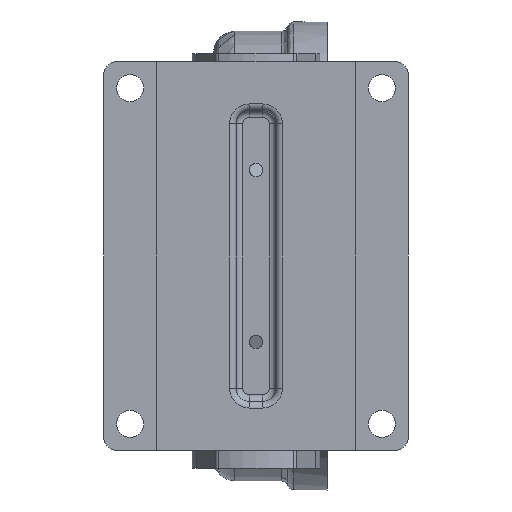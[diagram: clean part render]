
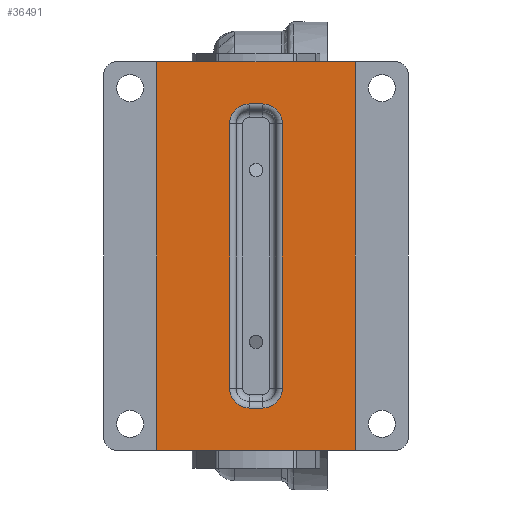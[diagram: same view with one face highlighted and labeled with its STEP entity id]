
A CAD part, front view. The second image highlights one B-rep face of the part: STEP entity #36491.
In plain terms, the highlighted planar face has unit normal (0, -1, 0).
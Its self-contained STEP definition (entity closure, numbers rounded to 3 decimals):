
#1338 = LINE ( 'NONE', #39336, #32659 ) ;
#2111 = CARTESIAN_POINT ( 'NONE',  ( -75.25, -264., -147. ) ) ;
#2452 = EDGE_CURVE ( 'NONE', #20464, #39149, #12293, .T. ) ;
#2592 = EDGE_CURVE ( 'NONE', #29528, #46848, #8167, .T. ) ;
#3522 = EDGE_CURVE ( 'NONE', #39149, #23028, #24662, .T. ) ;
#4311 = CARTESIAN_POINT ( 'NONE',  ( -5., -264., 100. ) ) ;
#4392 = EDGE_CURVE ( 'NONE', #23028, #47962, #1338, .T. ) ;
#4872 = EDGE_CURVE ( 'NONE', #12975, #23185, #15774, .T. ) ;
#6225 = EDGE_CURVE ( 'NONE', #47962, #20464, #28950, .T. ) ;
#6435 = CIRCLE ( 'NONE', #28716, 15. ) ;
#6614 = CIRCLE ( 'NONE', #24890, 15. ) ;
#7132 = EDGE_LOOP ( 'NONE', ( #33744, #36492, #35848, #34434 ) ) ;
#7262 = AXIS2_PLACEMENT_3D ( 'NONE', #35309, #46112, #45791 ) ;
#7345 = EDGE_CURVE ( 'NONE', #39123, #24845, #6614, .T. ) ;
#7458 = CARTESIAN_POINT ( 'NONE',  ( 75.25, -264., 147. ) ) ;
#8167 = CIRCLE ( 'NONE', #46568, 15. ) ;
#8877 = PLANE ( 'NONE',  #24658 ) ;
#9193 = CARTESIAN_POINT ( 'NONE',  ( -75.25, -264., -190.661 ) ) ;
#9595 = CARTESIAN_POINT ( 'NONE',  ( -20., -264., 100. ) ) ;
#9905 = DIRECTION ( 'NONE',  ( 0., 1., 0. ) ) ;
#10124 = VERTEX_POINT ( 'NONE', #29594 ) ;
#11265 = LINE ( 'NONE', #9595, #47134 ) ;
#12293 = LINE ( 'NONE', #33620, #43498 ) ;
#12427 = DIRECTION ( 'NONE',  ( 1., 0., 0. ) ) ;
#12585 = CARTESIAN_POINT ( 'NONE',  ( 115.25, -264., -147. ) ) ;
#12975 = VERTEX_POINT ( 'NONE', #34734 ) ;
#13191 = DIRECTION ( 'NONE',  ( 0., 0., 1. ) ) ;
#13493 = EDGE_CURVE ( 'NONE', #24845, #12975, #47928, .T. ) ;
#13959 = CARTESIAN_POINT ( 'NONE',  ( 5., -264., 100. ) ) ;
#14564 = DIRECTION ( 'NONE',  ( 0., 0., 1. ) ) ;
#14999 = EDGE_CURVE ( 'NONE', #46848, #10124, #37267, .T. ) ;
#15057 = DIRECTION ( 'NONE',  ( 0., 1., 0. ) ) ;
#15774 = CIRCLE ( 'NONE', #7262, 15. ) ;
#16218 = DIRECTION ( 'NONE',  ( 0., -1., 0. ) ) ;
#16243 = CARTESIAN_POINT ( 'NONE',  ( -5., -264., -115. ) ) ;
#16295 = CARTESIAN_POINT ( 'NONE',  ( 20., -264., 100. ) ) ;
#17750 = ORIENTED_EDGE ( 'NONE', *, *, #7345, .T. ) ;
#18121 = ORIENTED_EDGE ( 'NONE', *, *, #4872, .T. ) ;
#19931 = DIRECTION ( 'NONE',  ( -1., 0., 0. ) ) ;
#20464 = VERTEX_POINT ( 'NONE', #31215 ) ;
#21175 = EDGE_CURVE ( 'NONE', #23185, #29528, #11265, .T. ) ;
#21668 = DIRECTION ( 'NONE',  ( -1., 0., 0. ) ) ;
#23028 = VERTEX_POINT ( 'NONE', #23125 ) ;
#23125 = CARTESIAN_POINT ( 'NONE',  ( -75.25, -264., 147. ) ) ;
#23185 = VERTEX_POINT ( 'NONE', #32332 ) ;
#23511 = VERTEX_POINT ( 'NONE', #16295 ) ;
#23747 = CARTESIAN_POINT ( 'NONE',  ( 5., -264., 115. ) ) ;
#24658 = AXIS2_PLACEMENT_3D ( 'NONE', #9193, #16218, #38479 ) ;
#24662 = LINE ( 'NONE', #32862, #39646 ) ;
#24845 = VERTEX_POINT ( 'NONE', #44168 ) ;
#24890 = AXIS2_PLACEMENT_3D ( 'NONE', #33014, #15057, #36569 ) ;
#25238 = CARTESIAN_POINT ( 'NONE',  ( 20., -264., -100. ) ) ;
#26517 = LINE ( 'NONE', #25238, #39794 ) ;
#26671 = DIRECTION ( 'NONE',  ( 0., 0., -1. ) ) ;
#26988 = ORIENTED_EDGE ( 'NONE', *, *, #13493, .T. ) ;
#27102 = EDGE_CURVE ( 'NONE', #10124, #23511, #6435, .T. ) ;
#27448 = FACE_OUTER_BOUND ( 'NONE', #7132, .T. ) ;
#28390 = DIRECTION ( 'NONE',  ( 0., 0., -1. ) ) ;
#28623 = VECTOR ( 'NONE', #12427, 1000. ) ;
#28716 = AXIS2_PLACEMENT_3D ( 'NONE', #13959, #9905, #32576 ) ;
#28950 = LINE ( 'NONE', #12585, #47421 ) ;
#29489 = CARTESIAN_POINT ( 'NONE',  ( -20., -264., 100. ) ) ;
#29528 = VERTEX_POINT ( 'NONE', #29489 ) ;
#29594 = CARTESIAN_POINT ( 'NONE',  ( 5., -264., 115. ) ) ;
#31215 = CARTESIAN_POINT ( 'NONE',  ( 75.25, -264., -147. ) ) ;
#32332 = CARTESIAN_POINT ( 'NONE',  ( -20., -264., -100. ) ) ;
#32576 = DIRECTION ( 'NONE',  ( 0., 0., -1. ) ) ;
#32659 = VECTOR ( 'NONE', #28390, 1000. ) ;
#32862 = CARTESIAN_POINT ( 'NONE',  ( 115.25, -264., 147. ) ) ;
#33014 = CARTESIAN_POINT ( 'NONE',  ( 5., -264., -100. ) ) ;
#33620 = CARTESIAN_POINT ( 'NONE',  ( 75.25, -264., 181.767 ) ) ;
#33744 = ORIENTED_EDGE ( 'NONE', *, *, #6225, .T. ) ;
#34434 = ORIENTED_EDGE ( 'NONE', *, *, #4392, .T. ) ;
#34502 = EDGE_CURVE ( 'NONE', #23511, #39123, #26517, .T. ) ;
#34529 = ORIENTED_EDGE ( 'NONE', *, *, #21175, .T. ) ;
#34734 = CARTESIAN_POINT ( 'NONE',  ( -5., -264., -115. ) ) ;
#34867 = ORIENTED_EDGE ( 'NONE', *, *, #2592, .T. ) ;
#35309 = CARTESIAN_POINT ( 'NONE',  ( -5., -264., -100. ) ) ;
#35627 = CARTESIAN_POINT ( 'NONE',  ( -5., -264., 115. ) ) ;
#35848 = ORIENTED_EDGE ( 'NONE', *, *, #3522, .T. ) ;
#35922 = DIRECTION ( 'NONE',  ( 0., 0., -1. ) ) ;
#36445 = ORIENTED_EDGE ( 'NONE', *, *, #14999, .T. ) ;
#36491 = ADVANCED_FACE ( 'NONE', ( #43608, #27448 ), #8877, .T. ) ;
#36492 = ORIENTED_EDGE ( 'NONE', *, *, #2452, .T. ) ;
#36569 = DIRECTION ( 'NONE',  ( 0., 0., -1. ) ) ;
#37267 = LINE ( 'NONE', #23747, #28623 ) ;
#38422 = DIRECTION ( 'NONE',  ( 1., 0., 0. ) ) ;
#38479 = DIRECTION ( 'NONE',  ( 0., 0., -1. ) ) ;
#39123 = VERTEX_POINT ( 'NONE', #44851 ) ;
#39149 = VERTEX_POINT ( 'NONE', #7458 ) ;
#39336 = CARTESIAN_POINT ( 'NONE',  ( -75.25, -264., 181.767 ) ) ;
#39646 = VECTOR ( 'NONE', #21668, 1000. ) ;
#39794 = VECTOR ( 'NONE', #35922, 1000. ) ;
#40958 = EDGE_LOOP ( 'NONE', ( #34529, #34867, #36445, #42174, #44618, #17750, #26988, #18121 ) ) ;
#41340 = DIRECTION ( 'NONE',  ( 0., 1., 0. ) ) ;
#42174 = ORIENTED_EDGE ( 'NONE', *, *, #27102, .T. ) ;
#43498 = VECTOR ( 'NONE', #14564, 1000. ) ;
#43608 = FACE_BOUND ( 'NONE', #40958, .T. ) ;
#44168 = CARTESIAN_POINT ( 'NONE',  ( 5., -264., -115. ) ) ;
#44618 = ORIENTED_EDGE ( 'NONE', *, *, #34502, .T. ) ;
#44851 = CARTESIAN_POINT ( 'NONE',  ( 20., -264., -100. ) ) ;
#45009 = VECTOR ( 'NONE', #19931, 1000. ) ;
#45791 = DIRECTION ( 'NONE',  ( 0., 0., -1. ) ) ;
#46112 = DIRECTION ( 'NONE',  ( 0., 1., 0. ) ) ;
#46568 = AXIS2_PLACEMENT_3D ( 'NONE', #4311, #41340, #26671 ) ;
#46848 = VERTEX_POINT ( 'NONE', #35627 ) ;
#47134 = VECTOR ( 'NONE', #13191, 1000. ) ;
#47421 = VECTOR ( 'NONE', #38422, 1000. ) ;
#47928 = LINE ( 'NONE', #16243, #45009 ) ;
#47962 = VERTEX_POINT ( 'NONE', #2111 ) ;
